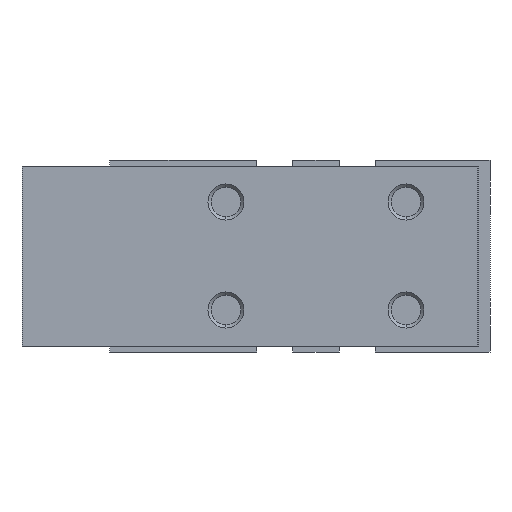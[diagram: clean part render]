
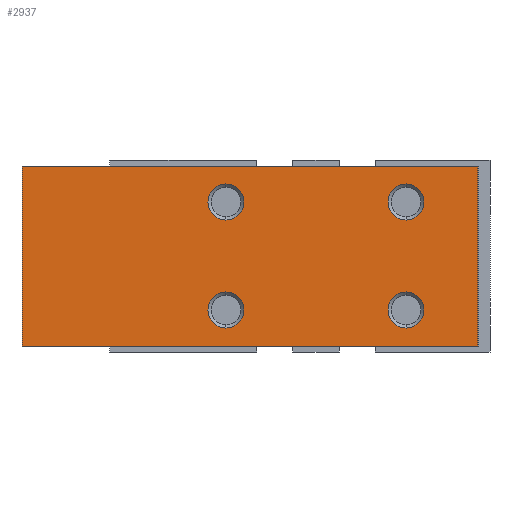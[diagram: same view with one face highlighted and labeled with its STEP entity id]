
A CAD part, left-side view. The second image highlights one B-rep face of the part: STEP entity #2937.
In plain terms, the highlighted planar face has unit normal (-1, 0, 0).
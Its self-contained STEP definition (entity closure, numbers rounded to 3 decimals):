
#45 = LINE ( 'NONE', #916, #5960 ) ;
#63 = CARTESIAN_POINT ( 'NONE',  ( -8.5, 24.5, 7.5 ) ) ;
#87 = DIRECTION ( 'NONE',  ( -1., 0., 0. ) ) ;
#186 = ORIENTED_EDGE ( 'NONE', *, *, #2140, .F. ) ;
#213 = EDGE_LOOP ( 'NONE', ( #1263, #598 ) ) ;
#408 = LINE ( 'NONE', #5911, #5708 ) ;
#570 = DIRECTION ( 'NONE',  ( 0., 0., 1. ) ) ;
#577 = ORIENTED_EDGE ( 'NONE', *, *, #3348, .F. ) ;
#598 = ORIENTED_EDGE ( 'NONE', *, *, #3502, .F. ) ;
#644 = DIRECTION ( 'NONE',  ( -1., 0., 0. ) ) ;
#658 = AXIS2_PLACEMENT_3D ( 'NONE', #4024, #5879, #3112 ) ;
#685 = LINE ( 'NONE', #776, #4416 ) ;
#709 = CARTESIAN_POINT ( 'NONE',  ( -8.5, 7.5, -6. ) ) ;
#768 = CARTESIAN_POINT ( 'NONE',  ( -8.5, 7.5, -4.5 ) ) ;
#776 = CARTESIAN_POINT ( 'NONE',  ( -8.5, 24.5, -7.5 ) ) ;
#802 = DIRECTION ( 'NONE',  ( 0., -1., 0. ) ) ;
#825 = DIRECTION ( 'NONE',  ( 0., 0., 1. ) ) ;
#875 = FACE_BOUND ( 'NONE', #213, .T. ) ;
#905 = DIRECTION ( 'NONE',  ( 1., 0., 0. ) ) ;
#916 = CARTESIAN_POINT ( 'NONE',  ( -8.5, -13.5, 7.5 ) ) ;
#929 = DIRECTION ( 'NONE',  ( -1., 0., 0. ) ) ;
#1009 = ORIENTED_EDGE ( 'NONE', *, *, #4944, .F. ) ;
#1129 = VERTEX_POINT ( 'NONE', #5438 ) ;
#1263 = ORIENTED_EDGE ( 'NONE', *, *, #2195, .F. ) ;
#1296 = CARTESIAN_POINT ( 'NONE',  ( -8.5, -7.5, 6. ) ) ;
#1352 = FACE_OUTER_BOUND ( 'NONE', #4696, .T. ) ;
#1426 = AXIS2_PLACEMENT_3D ( 'NONE', #63, #905, #2298 ) ;
#1499 = CARTESIAN_POINT ( 'NONE',  ( -8.5, 7.5, 4.5 ) ) ;
#1558 = CARTESIAN_POINT ( 'NONE',  ( -8.5, 7.5, 4.5 ) ) ;
#1623 = EDGE_CURVE ( 'NONE', #2477, #5257, #685, .T. ) ;
#1642 = CARTESIAN_POINT ( 'NONE',  ( -8.5, -7.5, -3. ) ) ;
#1792 = EDGE_CURVE ( 'NONE', #4316, #4579, #1932, .T. ) ;
#1901 = CARTESIAN_POINT ( 'NONE',  ( -8.5, -7.5, 4.5 ) ) ;
#1932 = CIRCLE ( 'NONE', #3971, 1.5 ) ;
#2093 = CIRCLE ( 'NONE', #3659, 1.5 ) ;
#2140 = EDGE_CURVE ( 'NONE', #1129, #5257, #45, .T. ) ;
#2195 = EDGE_CURVE ( 'NONE', #3619, #2995, #4702, .T. ) ;
#2211 = ORIENTED_EDGE ( 'NONE', *, *, #4504, .F. ) ;
#2251 = DIRECTION ( 'NONE',  ( 0., 0., -1. ) ) ;
#2298 = DIRECTION ( 'NONE',  ( 0., 1., 0. ) ) ;
#2306 = CARTESIAN_POINT ( 'NONE',  ( -8.5, 7.5, -3. ) ) ;
#2477 = VERTEX_POINT ( 'NONE', #4585 ) ;
#2547 = EDGE_CURVE ( 'NONE', #5364, #1129, #5014, .T. ) ;
#2658 = CIRCLE ( 'NONE', #5191, 1.5 ) ;
#2695 = CARTESIAN_POINT ( 'NONE',  ( -8.5, 24.5, 7.5 ) ) ;
#2725 = ORIENTED_EDGE ( 'NONE', *, *, #4575, .F. ) ;
#2781 = AXIS2_PLACEMENT_3D ( 'NONE', #4849, #4475, #3995 ) ;
#2850 = FACE_BOUND ( 'NONE', #4091, .T. ) ;
#2867 = ORIENTED_EDGE ( 'NONE', *, *, #2547, .F. ) ;
#2937 = ADVANCED_FACE ( 'NONE', ( #1352, #875, #2850, #3210, #3735 ), #5104, .F. ) ;
#2995 = VERTEX_POINT ( 'NONE', #709 ) ;
#3089 = CARTESIAN_POINT ( 'NONE',  ( -8.5, 7.5, 3. ) ) ;
#3105 = EDGE_CURVE ( 'NONE', #5364, #2477, #408, .T. ) ;
#3112 = DIRECTION ( 'NONE',  ( 0., 0., 1. ) ) ;
#3140 = AXIS2_PLACEMENT_3D ( 'NONE', #768, #3563, #825 ) ;
#3210 = FACE_BOUND ( 'NONE', #5622, .T. ) ;
#3266 = CIRCLE ( 'NONE', #2781, 1.5 ) ;
#3329 = DIRECTION ( 'NONE',  ( 0., 0., 1. ) ) ;
#3332 = CARTESIAN_POINT ( 'NONE',  ( -8.5, -7.5, -4.5 ) ) ;
#3348 = EDGE_CURVE ( 'NONE', #4579, #4316, #2658, .T. ) ;
#3373 = VERTEX_POINT ( 'NONE', #1642 ) ;
#3502 = EDGE_CURVE ( 'NONE', #2995, #3619, #3537, .T. ) ;
#3517 = ORIENTED_EDGE ( 'NONE', *, *, #3105, .T. ) ;
#3537 = CIRCLE ( 'NONE', #3140, 1.5 ) ;
#3563 = DIRECTION ( 'NONE',  ( -1., 0., 0. ) ) ;
#3619 = VERTEX_POINT ( 'NONE', #2306 ) ;
#3659 = AXIS2_PLACEMENT_3D ( 'NONE', #1901, #929, #5944 ) ;
#3735 = FACE_BOUND ( 'NONE', #5459, .T. ) ;
#3779 = DIRECTION ( 'NONE',  ( 0., 0., 1. ) ) ;
#3894 = VERTEX_POINT ( 'NONE', #1296 ) ;
#3915 = ORIENTED_EDGE ( 'NONE', *, *, #4942, .F. ) ;
#3971 = AXIS2_PLACEMENT_3D ( 'NONE', #1499, #87, #3329 ) ;
#3988 = CARTESIAN_POINT ( 'NONE',  ( -8.5, 24.5, 7.5 ) ) ;
#3995 = DIRECTION ( 'NONE',  ( 0., 0., 1. ) ) ;
#4017 = CARTESIAN_POINT ( 'NONE',  ( -8.5, -7.5, 3. ) ) ;
#4024 = CARTESIAN_POINT ( 'NONE',  ( -8.5, -7.5, -4.5 ) ) ;
#4091 = EDGE_LOOP ( 'NONE', ( #1009, #2211 ) ) ;
#4267 = DIRECTION ( 'NONE',  ( 0., 0., -1. ) ) ;
#4316 = VERTEX_POINT ( 'NONE', #3089 ) ;
#4329 = CARTESIAN_POINT ( 'NONE',  ( -8.5, -13.5, -7.5 ) ) ;
#4358 = DIRECTION ( 'NONE',  ( 0., 0., 1. ) ) ;
#4416 = VECTOR ( 'NONE', #802, 1000. ) ;
#4475 = DIRECTION ( 'NONE',  ( -1., 0., 0. ) ) ;
#4495 = CARTESIAN_POINT ( 'NONE',  ( -8.5, -7.5, -6. ) ) ;
#4504 = EDGE_CURVE ( 'NONE', #5405, #3894, #2093, .T. ) ;
#4575 = EDGE_CURVE ( 'NONE', #3373, #5949, #5123, .T. ) ;
#4579 = VERTEX_POINT ( 'NONE', #5188 ) ;
#4585 = CARTESIAN_POINT ( 'NONE',  ( -8.5, 24.5, -7.5 ) ) ;
#4615 = ORIENTED_EDGE ( 'NONE', *, *, #1792, .F. ) ;
#4631 = CARTESIAN_POINT ( 'NONE',  ( -8.5, 7.5, -4.5 ) ) ;
#4696 = EDGE_LOOP ( 'NONE', ( #5875, #186, #2867, #3517 ) ) ;
#4702 = CIRCLE ( 'NONE', #5673, 1.5 ) ;
#4724 = DIRECTION ( 'NONE',  ( -1., 0., 0. ) ) ;
#4849 = CARTESIAN_POINT ( 'NONE',  ( -8.5, -7.5, 4.5 ) ) ;
#4942 = EDGE_CURVE ( 'NONE', #5949, #3373, #5905, .T. ) ;
#4944 = EDGE_CURVE ( 'NONE', #3894, #5405, #3266, .T. ) ;
#5014 = LINE ( 'NONE', #2695, #5467 ) ;
#5104 = PLANE ( 'NONE',  #1426 ) ;
#5123 = CIRCLE ( 'NONE', #5612, 1.5 ) ;
#5188 = CARTESIAN_POINT ( 'NONE',  ( -8.5, 7.5, 6. ) ) ;
#5191 = AXIS2_PLACEMENT_3D ( 'NONE', #1558, #644, #4358 ) ;
#5257 = VERTEX_POINT ( 'NONE', #4329 ) ;
#5364 = VERTEX_POINT ( 'NONE', #3988 ) ;
#5405 = VERTEX_POINT ( 'NONE', #4017 ) ;
#5438 = CARTESIAN_POINT ( 'NONE',  ( -8.5, -13.5, 7.5 ) ) ;
#5459 = EDGE_LOOP ( 'NONE', ( #577, #4615 ) ) ;
#5467 = VECTOR ( 'NONE', #5948, 1000. ) ;
#5612 = AXIS2_PLACEMENT_3D ( 'NONE', #3332, #5645, #570 ) ;
#5622 = EDGE_LOOP ( 'NONE', ( #2725, #3915 ) ) ;
#5645 = DIRECTION ( 'NONE',  ( -1., 0., 0. ) ) ;
#5673 = AXIS2_PLACEMENT_3D ( 'NONE', #4631, #4724, #3779 ) ;
#5708 = VECTOR ( 'NONE', #2251, 1000. ) ;
#5875 = ORIENTED_EDGE ( 'NONE', *, *, #1623, .T. ) ;
#5879 = DIRECTION ( 'NONE',  ( -1., 0., 0. ) ) ;
#5905 = CIRCLE ( 'NONE', #658, 1.5 ) ;
#5911 = CARTESIAN_POINT ( 'NONE',  ( -8.5, 24.5, 7.5 ) ) ;
#5944 = DIRECTION ( 'NONE',  ( 0., 0., 1. ) ) ;
#5948 = DIRECTION ( 'NONE',  ( 0., -1., 0. ) ) ;
#5949 = VERTEX_POINT ( 'NONE', #4495 ) ;
#5960 = VECTOR ( 'NONE', #4267, 1000. ) ;
